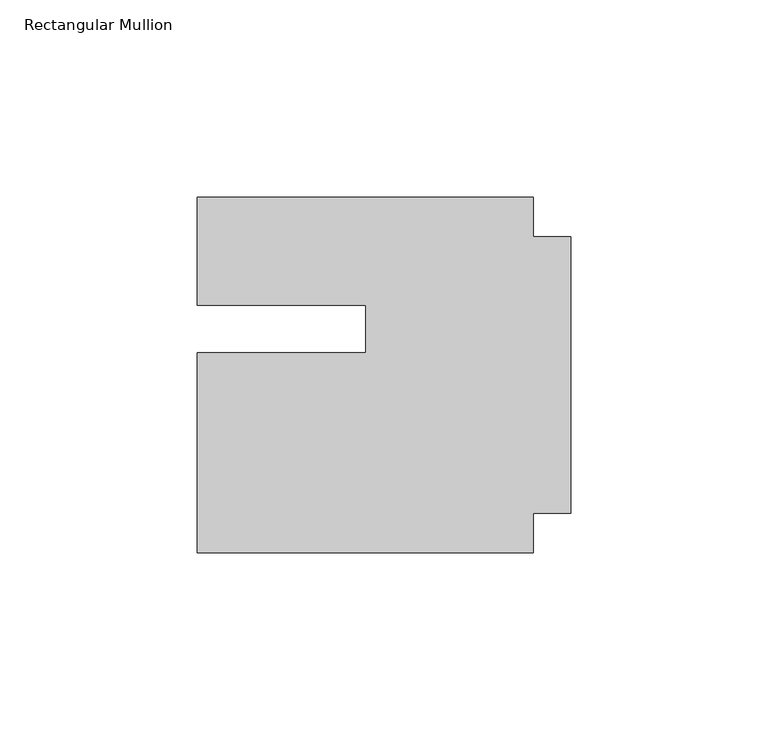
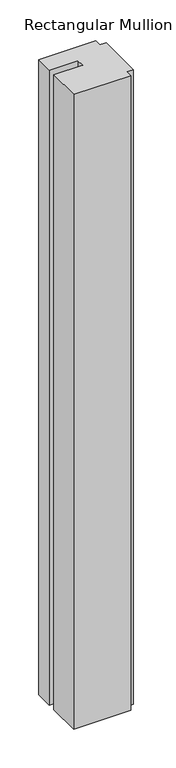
"""IFC4 building model written with IfcOpenShell, lengths in millimetres: member geometry, Rectangular Mullion : Klein_Nature_Profile-Top-Door."""

from ifc_helpers import new_model, si_unit, frame, origin, place, context, project, spatial, polyline, outline, extrude, source, transform, mapped, element, save


def rectangular_mullion_4657a7dc(model_context):
    return source(origin(), model_context, "Body", "SweptSolid", [
        extrude(outline(polyline([(-94.4999981, 5.6500007), (-51.8499996, 5.6500038), (-51.8500005, 17.6500038), (-94.4999972, 17.6500007), (-94.4999952, 45.0000043), (-9.4999995, 44.9999981), (-9.5000002, 34.9999983), (0.0, 34.9999976), (-5.1e-06, -34.9999976), (-9.5000054, -34.9999969), (-9.5000061, -45.0000019), (-94.5000018, -44.9999957), (-94.4999981, 5.6500007)])), frame((0.0, 0.0, -1000.0000002), z_axis=(0.0, 0.0, 1.0), x_axis=(1.0, 0.0, 0.0)), (0.0, 0.0, 1.0), 1000.0000002),
    ])


if __name__ == "__main__":
    model = new_model("IFC4")
    model_context = context("Model", 3, world=origin())
    ifc_project = project(units=[si_unit("LENGTHUNIT", "METRE", prefix="MILLI")], contexts=[model_context])
    site = spatial("IfcSite", under=ifc_project)
    building = spatial("IfcBuilding", under=site)
    placement = place(None, origin())
    rectangular_mullion_shape = rectangular_mullion_4657a7dc(model_context)
    element("IfcMember", 1, ObjectType="Rectangular Mullion : Klein_Nature_Profile-Top-Door", at=placement, inside=building, context=model_context, shape_type="MappedRepresentation", body=[
        mapped(rectangular_mullion_shape, transform((0.0, 0.0, 0.0), x_axis=(1.0, 0.0, 0.0), y_axis=(0.0, 1.0, 0.0), z_axis=(0.0, 0.0, 1.0))),
    ])
    save(model, "model.ifc")
